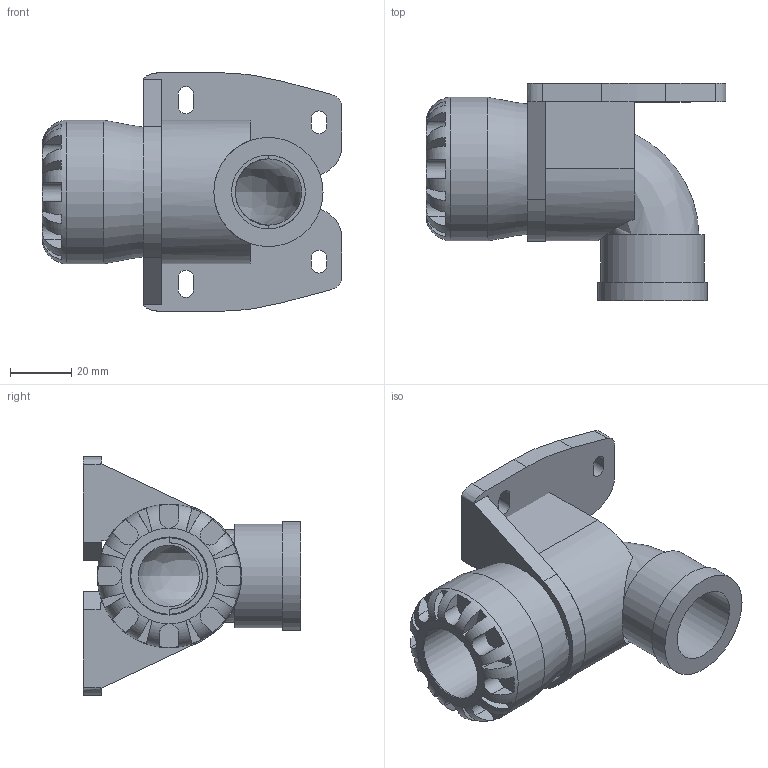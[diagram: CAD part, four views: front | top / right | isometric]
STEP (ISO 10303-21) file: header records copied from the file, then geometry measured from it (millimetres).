
FILE_DESCRIPTION(/* description */ ('PLASSON WALL PLATE ELBOW 25X3/4" SERIES 1'),/* implementation_level */ '2;1');
FILE_NAME(/* name */ 'C:\Dropbox\KIMPROJECTS-Inventor\99-16-3568-Processing\1075\107500025007.ipt.stp',/* time_stamp */ '2017-01-22T11:46:41+02:00',/* author */ ('KIM'),/* organization */ (''),/* preprocessor_version */ 'ST-DEVELOPER v15.6',/* originating_system */ 'Autodesk Inventor 2015',/* authorisation */ '');
FILE_SCHEMA (('AUTOMOTIVE_DESIGN { 1 0 10303 214 3 1 1 }'));
Length unit declared in the file: millimetre
Products named in the file (1): 107500025007
Bounding box: 98 x 71 x 78 mm (x, y, z)
Volume: 117692.7 mm3; surface area: 43928.4 mm2
Topology: 2 solids, 2 shells, 164 faces, 433 edges, 276 vertices
Faces by surface type: plane 105, cylinder 41, bspline 15, torus 2, cone 1
Full cylindrical faces by diameter (mm): 20 x1, 24.117 x1, 25 x1, 33.764 x1, 35.693 x1, 41.36 x1, 47 x1
Entity records: 6144 total; most frequent: CARTESIAN_POINT 2028, ORIENTED_EDGE 832, DIRECTION 794, EDGE_CURVE 416, AXIS2_PLACEMENT_3D 295, VERTEX_POINT 270, LINE 204, VECTOR 204
